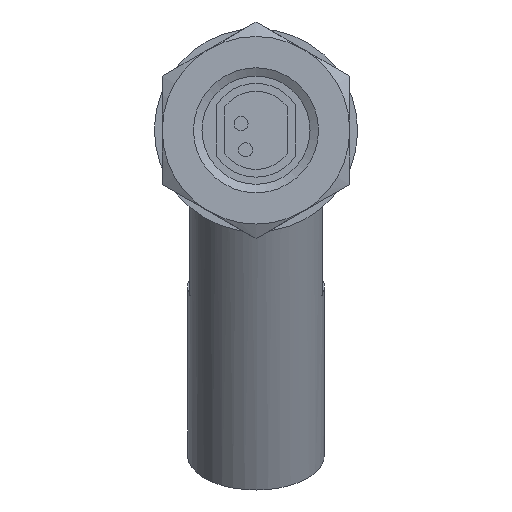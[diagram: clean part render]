
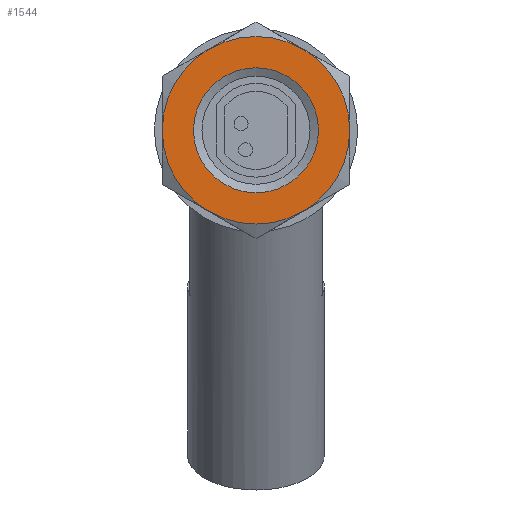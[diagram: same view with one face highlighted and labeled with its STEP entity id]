
A CAD part, front view. The second image highlights one B-rep face of the part: STEP entity #1544.
In plain terms, the highlighted planar face has unit normal (0, -1, 0) as drawn and (-1, 0, 0) by its records, which use the part's own axes.
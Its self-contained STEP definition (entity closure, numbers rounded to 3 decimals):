
#1427=CARTESIAN_POINT('',(0.0,0.,8.));
#1428=VERTEX_POINT('',#1427);
#1429=CARTESIAN_POINT('',(0.0,0.0,0.0));
#1430=DIRECTION('',(-1.0,0.0,0.0));
#1431=DIRECTION('',(0.0,0.0,-1.0));
#1432=AXIS2_PLACEMENT_3D('',#1429,#1430,#1431);
#1433=CIRCLE('',#1432,8.);
#1434=EDGE_CURVE('',#1428,#1428,#1433,.T.);
#1480=CARTESIAN_POINT('',(0.0,0.,0.));
#1481=DIRECTION('',(1.0,0.0,0.0));
#1482=DIRECTION('',(0.0,0.0,-1.0));
#1483=AXIS2_PLACEMENT_3D('',#1480,#1481,#1482);
#1484=PLANE('',#1483);
#1485=CARTESIAN_POINT('',(0.0,-10.392,-6.));
#1486=VERTEX_POINT('',#1485);
#1487=CARTESIAN_POINT('',(0.0,-10.392,6.));
#1488=VERTEX_POINT('',#1487);
#1489=CARTESIAN_POINT('',(0.0,0.0,0.0));
#1490=DIRECTION('',(-1.0,0.0,0.0));
#1491=DIRECTION('',(0.0,1.0,0.0));
#1492=AXIS2_PLACEMENT_3D('',#1489,#1490,#1491);
#1493=CIRCLE('',#1492,12.);
#1494=EDGE_CURVE('',#1486,#1488,#1493,.T.);
#1495=ORIENTED_EDGE('',*,*,#1494,.T.);
#1496=CARTESIAN_POINT('',(0.0,0.0,12.));
#1497=VERTEX_POINT('',#1496);
#1498=CARTESIAN_POINT('',(0.0,0.0,0.0));
#1499=DIRECTION('',(-1.0,0.0,0.0));
#1500=DIRECTION('',(0.0,1.0,0.0));
#1501=AXIS2_PLACEMENT_3D('',#1498,#1499,#1500);
#1502=CIRCLE('',#1501,12.);
#1503=EDGE_CURVE('',#1488,#1497,#1502,.T.);
#1504=ORIENTED_EDGE('',*,*,#1503,.T.);
#1505=CARTESIAN_POINT('',(0.0,10.392,6.));
#1506=VERTEX_POINT('',#1505);
#1507=CARTESIAN_POINT('',(0.0,0.0,0.0));
#1508=DIRECTION('',(-1.0,0.0,0.0));
#1509=DIRECTION('',(0.0,1.0,0.0));
#1510=AXIS2_PLACEMENT_3D('',#1507,#1508,#1509);
#1511=CIRCLE('',#1510,12.);
#1512=EDGE_CURVE('',#1497,#1506,#1511,.T.);
#1513=ORIENTED_EDGE('',*,*,#1512,.T.);
#1514=CARTESIAN_POINT('',(0.0,10.392,-6.));
#1515=VERTEX_POINT('',#1514);
#1516=CARTESIAN_POINT('',(0.0,0.0,0.0));
#1517=DIRECTION('',(-1.0,0.0,0.0));
#1518=DIRECTION('',(0.0,1.0,0.0));
#1519=AXIS2_PLACEMENT_3D('',#1516,#1517,#1518);
#1520=CIRCLE('',#1519,12.);
#1521=EDGE_CURVE('',#1506,#1515,#1520,.T.);
#1522=ORIENTED_EDGE('',*,*,#1521,.T.);
#1523=CARTESIAN_POINT('',(0.0,0.,-12.));
#1524=VERTEX_POINT('',#1523);
#1525=CARTESIAN_POINT('',(0.0,0.0,0.0));
#1526=DIRECTION('',(-1.0,0.0,0.0));
#1527=DIRECTION('',(0.0,1.0,0.0));
#1528=AXIS2_PLACEMENT_3D('',#1525,#1526,#1527);
#1529=CIRCLE('',#1528,12.);
#1530=EDGE_CURVE('',#1515,#1524,#1529,.T.);
#1531=ORIENTED_EDGE('',*,*,#1530,.T.);
#1532=CARTESIAN_POINT('',(0.0,0.0,0.0));
#1533=DIRECTION('',(-1.0,0.0,0.0));
#1534=DIRECTION('',(0.0,1.0,0.0));
#1535=AXIS2_PLACEMENT_3D('',#1532,#1533,#1534);
#1536=CIRCLE('',#1535,12.);
#1537=EDGE_CURVE('',#1524,#1486,#1536,.T.);
#1538=ORIENTED_EDGE('',*,*,#1537,.T.);
#1539=EDGE_LOOP('',(#1495,#1504,#1513,#1522,#1531,#1538));
#1540=FACE_OUTER_BOUND('',#1539,.T.);
#1541=ORIENTED_EDGE('',*,*,#1434,.F.);
#1542=EDGE_LOOP('',(#1541));
#1543=FACE_BOUND('',#1542,.T.);
#1544=ADVANCED_FACE('',(#1540,#1543),#1484,.F.);
